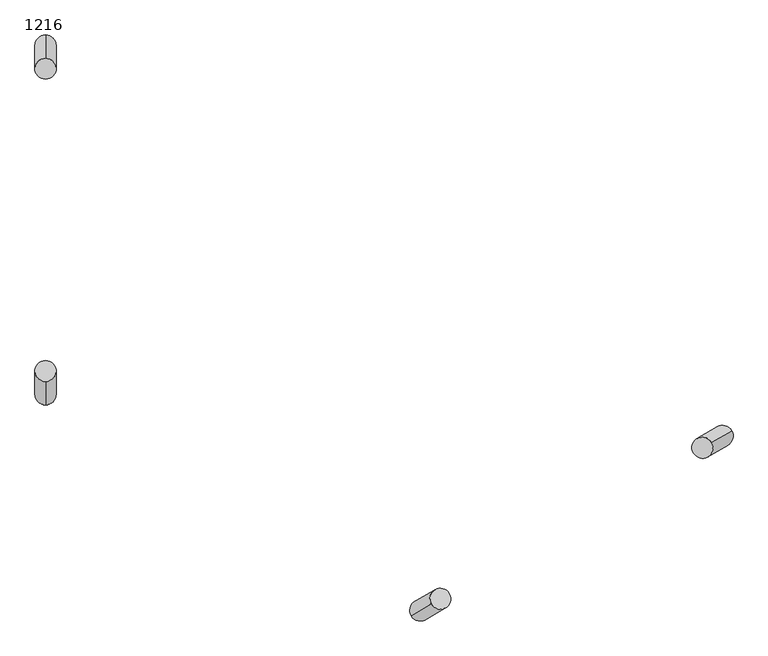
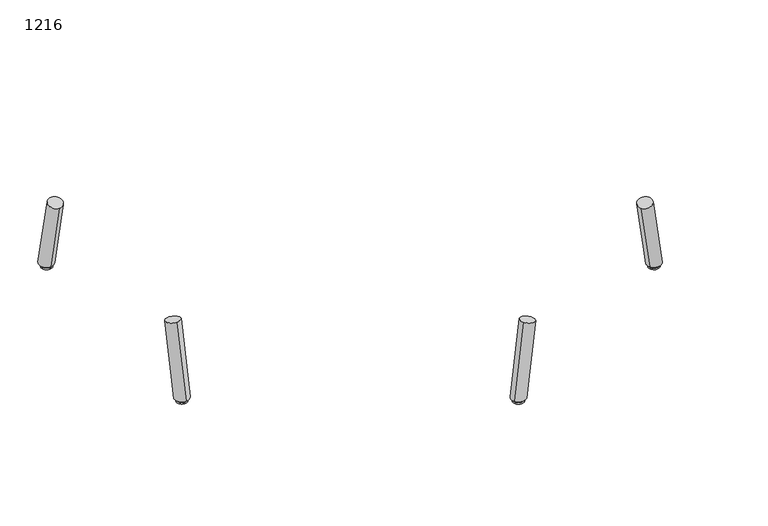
"""IFC4 building model written with IfcOpenShell, lengths in millimetres: furniture geometry, Laguna-Modular-Inside_Curve-ERG : 1216."""

import ifcopenshell
import ifcopenshell.guid

model = None  # the IFC model being written
_history = None  # IfcOwnerHistory: only IFC2X3 demands one
_inside = {}  # id of a spatial element -> (the spatial element, [elements in it])
_under = {}  # id of a project, library or spatial element -> (it, [spatial elements below it])
_declared = {}  # id of a project -> (the project, [libraries it declares])
_typed = {}  # id of a type object -> (the type object, [elements of that type])
_made_of = {}  # id of a material, layer set ... -> (it, [elements and type objects made of it])


def new_model(schema):
    """Start an empty IFC model of exactly this schema.

    Asked for "IFC4X3", IfcOpenShell would pick the latest addendum, in which some entities
    have other attributes; the version numbers below select the first issue.
    IFC2X3 requires an IfcOwnerHistory on every rooted entity: one is made here for all.
    """
    global model, _history
    if schema == "IFC4X3":
        model = ifcopenshell.file(schema_version=(4, 3, 0, 0))
    else:
        model = ifcopenshell.file(schema=schema)
    _inside.clear()
    _under.clear()
    _declared.clear()
    _typed.clear()
    _made_of.clear()
    _history = None
    if model.schema == "IFC2X3":
        org = make("IfcOrganization", Name="unknown")
        user = make(
            "IfcPersonAndOrganization",
            ThePerson=make("IfcPerson", FamilyName="unknown"),
            TheOrganization=org,
        )
        app = make(
            "IfcApplication",
            ApplicationDeveloper=org,
            Version="unknown",
            ApplicationFullName="unknown",
            ApplicationIdentifier="unknown",
        )
        _history = make(
            "IfcOwnerHistory",
            OwningUser=user,
            OwningApplication=app,
            ChangeAction="ADDED",
            CreationDate=0,
        )
    return model


def make(cls, **values):
    """One entity of the class cls with the attributes given. An attribute that is None is left unset."""
    return model.create_entity(
        cls, **{name: value for name, value in values.items() if value is not None}
    )


def rooted(cls, **values):
    """An entity with a GlobalId (a new one), such as an element, a storey or a relation."""
    return make(cls, GlobalId=ifcopenshell.guid.new(), OwnerHistory=_history, **values)


def si_unit(unit_type, name, prefix=None):
    """IfcSIUnit, for example si_unit("LENGTHUNIT", "METRE", prefix="MILLI")."""
    return make("IfcSIUnit", UnitType=unit_type, Prefix=prefix, Name=name)


def assignment(units):
    """IfcUnitAssignment: the units of a project."""
    return None if units is None else make("IfcUnitAssignment", Units=units)


def point(xyz):
    """IfcCartesianPoint."""
    return None if xyz is None else make("IfcCartesianPoint", Coordinates=xyz)


def direction(xyz):
    """IfcDirection."""
    return None if xyz is None else make("IfcDirection", DirectionRatios=xyz)


def frame(location, z_axis=None, x_axis=None):
    """IfcAxis2Placement3D, a coordinate frame: its origin and axes. An axis left out is left unset."""
    return make(
        "IfcAxis2Placement3D",
        Location=point(location),
        Axis=direction(z_axis),
        RefDirection=direction(x_axis),
    )


def origin():
    """The frame at (0, 0, 0) with its axes left unset."""
    return frame((0.0, 0.0, 0.0))


def place(relative_to, where):
    """IfcLocalPlacement: puts the frame where relative to a parent placement (None: the world)."""
    return make(
        "IfcLocalPlacement", PlacementRelTo=relative_to, RelativePlacement=where
    )


def context(
    kind, dimensions, precision=None, world=None, true_north=None, identifier=None
):
    """IfcGeometricRepresentationContext, for example the 3D "Model" context."""
    return make(
        "IfcGeometricRepresentationContext",
        ContextIdentifier=identifier,
        ContextType=kind,
        CoordinateSpaceDimension=dimensions,
        Precision=precision,
        WorldCoordinateSystem=world,
        TrueNorth=true_north,
    )


def project(units=None, contexts=None):
    """IfcProject with its units and contexts."""
    return rooted(
        "IfcProject",
        Name="project",
        RepresentationContexts=contexts,
        UnitsInContext=assignment(units),
    )


def spatial(cls, under=None, at=None, **own):
    """A site, building, storey or space (cls), placed at a placement, below another one or the project."""
    s = rooted(cls, ObjectPlacement=at, **own)
    if under is not None:
        _under.setdefault(under.id(), (under, []))[1].append(s)
    return s


def circle_curve(where, radius):
    """IfcCircle in the frame where."""
    return make("IfcCircle", Position=where, Radius=radius)


def ellipse_curve(where, semi_axis1, semi_axis2):
    """IfcEllipse in the frame where."""
    return make(
        "IfcEllipse", Position=where, SemiAxis1=semi_axis1, SemiAxis2=semi_axis2
    )


def shape(context_of_items, identifier, shape_type, items):
    """IfcShapeRepresentation: the items that make up one representation, for example the "Body"."""
    return make(
        "IfcShapeRepresentation",
        ContextOfItems=context_of_items,
        RepresentationIdentifier=identifier,
        RepresentationType=shape_type,
        Items=items,
    )


def source(mapping_origin, context_of_items, identifier, shape_type, items):
    """IfcRepresentationMap: a shape defined once, which mapped items show again and again."""
    return make(
        "IfcRepresentationMap",
        MappingOrigin=mapping_origin,
        MappedRepresentation=shape(context_of_items, identifier, shape_type, items),
    )


def transform(
    local_origin,
    x_axis=None,
    y_axis=None,
    z_axis=None,
    scale=None,
    scale2=None,
    scale3=None,
    uniform=True,
):
    """IfcCartesianTransformationOperator3D, or its non-uniform kind. x_axis, y_axis, z_axis: its Axis1, 2, 3."""
    if uniform:
        return make(
            "IfcCartesianTransformationOperator3D",
            Axis1=direction(x_axis),
            Axis2=direction(y_axis),
            LocalOrigin=point(local_origin),
            Scale=scale,
            Axis3=direction(z_axis),
        )
    return make(
        "IfcCartesianTransformationOperator3DnonUniform",
        Axis1=direction(x_axis),
        Axis2=direction(y_axis),
        LocalOrigin=point(local_origin),
        Scale=scale,
        Axis3=direction(z_axis),
        Scale2=scale2,
        Scale3=scale3,
    )


def mapped(mapping_source, mapping_target):
    """IfcMappedItem: shows the shape of a source again, moved by a transform."""
    return make(
        "IfcMappedItem", MappingSource=mapping_source, MappingTarget=mapping_target
    )


def made_of(thing, what):
    """Note that an element or type object is made of a material, layer set ...; save() writes the relation."""
    if what is not None:
        _made_of.setdefault(what.id(), (what, []))[1].append(thing)
    return thing


def element(
    cls,
    number,
    at=None,
    inside=None,
    cuts=None,
    type_object=None,
    material=None,
    context=None,
    identifier="Body",
    shape_type=None,
    held_by="IfcProductDefinitionShape",
    body=None,
    shapes=None,
    **own,
):
    """One element of the class cls, such as IfcWall. Its Tag is "e" and its number.

    at: its placement. inside: the storey or other place that contains it. cuts: it is an
    opening in that element (IfcRelVoidsElement). A single representation is given by context,
    identifier, shape_type and body (its items); several are given by shapes. held_by: the class
    of the entity that holds the representations. save() writes the other relations.
    """
    e = rooted(cls, Tag="e%d" % number, ObjectPlacement=at, **own)
    if body is not None:
        shapes = [shape(context, identifier, shape_type, body)]
    if shapes is not None:
        e.Representation = make(held_by, Representations=shapes)
    if inside is not None:
        _inside.setdefault(inside.id(), (inside, []))[1].append(e)
    if cuts is not None:
        rooted(
            "IfcRelVoidsElement", RelatingBuildingElement=cuts, RelatedOpeningElement=e
        )
    if type_object is not None:
        _typed.setdefault(type_object.id(), (type_object, []))[1].append(e)
    return made_of(e, material)


def aggregate(whole, parts):
    """IfcRelAggregates: a whole, such as a stair, and the parts it consists of."""
    return rooted("IfcRelAggregates", RelatingObject=whole, RelatedObjects=parts)


def save(model, path):
    """Write the relations noted so far, then the file.

    IfcRelAggregates (storeys below a building ...), IfcRelContainedInSpatialStructure (elements
    in a storey), IfcRelDefinesByType, IfcRelAssociatesMaterial and IfcRelDeclares: one each for
    every whole, place, type object, material and project.
    """
    for whole, parts in _under.values():
        aggregate(whole, parts)
    for where, things in _inside.values():
        rooted(
            "IfcRelContainedInSpatialStructure",
            RelatedElements=things,
            RelatingStructure=where,
        )
    for kind, things in _typed.values():
        rooted("IfcRelDefinesByType", RelatedObjects=things, RelatingType=kind)
    for what, things in _made_of.values():
        rooted("IfcRelAssociatesMaterial", RelatedObjects=things, RelatingMaterial=what)
    for by, libraries in _declared.values():
        rooted("IfcRelDeclares", RelatingContext=by, RelatedDefinitions=libraries)
    model.write(path)


def plane_surface(at):
    """IfcPlane: the flat surface through the origin of the frame at, square to its z axis."""
    return make("IfcPlane", Position=at)


def cylinder_surface(at, radius):
    """IfcCylindricalSurface: all points at the distance radius from the z axis of the frame at."""
    return make("IfcCylindricalSurface", Position=at, Radius=radius)


def advanced_brep(points, edges, surfaces, faces):
    """IfcAdvancedBrep: a solid bounded by faces that lie on surfaces and meet in shared edges.

    An edge is (start, end): straight between two places in points (the first is 0);
    or (start, end, curve); or (start, end, curve, False) where it runs against its curve.
    A face is (place in surfaces, loops), or (place, loops, False) where it looks against
    its surface's normal. A loop lists edges by number (the first is 1), with a minus sign
    where the edge is run from its end to its start. The first loop is the outer one.
    """
    corners = [point(p) for p in points]
    vertices = [make("IfcVertexPoint", VertexGeometry=c) for c in corners]
    made = []
    for start, end, *more in edges:
        made.append(
            make(
                "IfcEdgeCurve",
                EdgeStart=vertices[start],
                EdgeEnd=vertices[end],
                EdgeGeometry=more[0] if more else make("IfcPolyline", Points=[corners[start], corners[end]]),
                SameSense=more[1] if len(more) > 1 else True,
            )
        )
    hull = []
    for where, loops, *sense in faces:
        bounds = []
        for j, loop in enumerate(loops):
            ring = [make("IfcOrientedEdge", EdgeElement=made[abs(k) - 1], Orientation=k > 0) for k in loop]
            bounds.append(
                make(
                    "IfcFaceOuterBound" if j == 0 else "IfcFaceBound",
                    Bound=make("IfcEdgeLoop", EdgeList=ring),
                    Orientation=True,
                )
            )
        hull.append(make("IfcAdvancedFace", Bounds=bounds, FaceSurface=surfaces[where], SameSense=sense[0] if sense else True))
    return make("IfcAdvancedBrep", Outer=make("IfcClosedShell", CfsFaces=hull))


def furniture_1216_b5371cae(model_context):
    return source(origin(), model_context, "Body", "AdvancedBrep", [
        advanced_brep(
        [(-4110.2347699, 419.133877, 3.9615026), (-4085.3844797, 433.4811987, 3.9615026), (-4093.8888866, 428.5711771, 3.9615026), (-4101.730363, 424.0438986, 3.9615026), (-4110.2347699, 419.133877, 0.0), (-4085.3844797, 433.4811987, 0.0), (-4097.8096248, 426.3075379, 0.0), (-4101.730363, 424.0438986, 10.16), (-4093.8888866, 428.5711771, 10.16), (-4097.8096248, 426.3075379, 10.16)],
        [
            (0, 1, circle_curve(frame((-4097.8096248, 426.3075379, 3.9615026), z_axis=(0.0, 0.0, 1.0), x_axis=(0.8660254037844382, 0.5000000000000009, 0.0)), 14.3473217)),
            (1, 2),
            (2, 3, circle_curve(frame((-4097.8096248, 426.3075379, 3.9615026), z_axis=(0.0, 0.0, -1.0), x_axis=(0.8660254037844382, 0.5000000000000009, 0.0)), 4.5272785)),
            (3, 0),
            (1, 0, circle_curve(frame((-4097.8096248, 426.3075379, 3.9615026), z_axis=(0.0, 0.0, 1.0), x_axis=(0.8660254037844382, 0.5000000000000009, 0.0)), 14.3473217)),
            (3, 2, circle_curve(frame((-4097.8096248, 426.3075379, 3.9615026), z_axis=(0.0, 0.0, -1.0), x_axis=(0.8660254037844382, 0.5000000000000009, 0.0)), 4.5272785)),
            (4, 5, circle_curve(frame((-4097.8096248, 426.3075379, 0.0), z_axis=(0.0, 0.0, 1.0), x_axis=(0.8660254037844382, 0.5000000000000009, 0.0)), 14.3473217)),
            (5, 1),
            (0, 4),
            (5, 4, circle_curve(frame((-4097.8096248, 426.3075379, 0.0), z_axis=(0.0, 0.0, 1.0), x_axis=(0.8660254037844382, 0.5000000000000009, 0.0)), 14.3473217)),
            (6, 5),
            (4, 6),
            (7, 8, circle_curve(frame((-4097.8096248, 426.3075379, 10.16), z_axis=(0.0, 0.0, 1.0), x_axis=(0.8660254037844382, 0.5000000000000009, 0.0)), 4.5272785)),
            (8, 9),
            (9, 7),
            (8, 7, circle_curve(frame((-4097.8096248, 426.3075379, 10.16), z_axis=(0.0, 0.0, 1.0), x_axis=(0.8660254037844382, 0.5000000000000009, 0.0)), 4.5272785)),
            (2, 8),
            (7, 3),
        ],
        [
            plane_surface(frame((-4097.8096248, 426.3075379, 3.9615026), z_axis=(0.0, 0.0, 1.0), x_axis=(0.8660254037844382, 0.5000000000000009, 0.0))),
            cylinder_surface(frame((-4097.8096248, 426.3075379, 3.9615026), z_axis=(0.0, 0.0, -1.0), x_axis=(0.8660254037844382, 0.5000000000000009, 0.0)), 14.3473217),
            plane_surface(frame((-4097.8096248, 426.3075379, 0.0), z_axis=(0.0, 0.0, -1.0), x_axis=(0.8660254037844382, 0.5000000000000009, 0.0))),
            plane_surface(frame((-4097.8096248, 426.3075379, 10.16), z_axis=(0.0, 0.0, 1.0), x_axis=(0.8660254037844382, 0.5000000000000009, 0.0))),
            cylinder_surface(frame((-4097.8096248, 426.3075379, 3.9615026), z_axis=(0.0, 0.0, -1.0), x_axis=(0.8660254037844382, 0.5000000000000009, 0.0)), 4.5272785),
        ],
        [
            (0, [[1, 2, 3, 4]]),
            (0, [[5, -4, 6, -2]]),
            (1, [[7, 8, -1, 9]]),
            (1, [[10, -9, -5, -8]]),
            (2, [[11, -7, 12]]),
            (2, [[-12, -10, -11]]),
            (3, [[13, 14, 15]]),
            (3, [[16, -15, -14]]),
            (4, [[-3, 17, -13, 18]]),
            (4, [[-6, -18, -16, -17]]),
        ],
    ),
        advanced_brep(
        [(-3569.5166556, 731.3176258, 3.9615026), (-3544.6663654, 745.6649476, 3.9615026), (-3553.1707724, 740.7549259, 3.9615026), (-3561.0122487, 736.2276475, 3.9615026), (-3569.5166556, 731.3176258, 0.0), (-3544.6663654, 745.6649476, 0.0), (-3557.0915105, 738.4912867, 0.0), (-3561.0122487, 736.2276475, 10.16), (-3553.1707724, 740.7549259, 10.16), (-3557.0915105, 738.4912867, 10.16)],
        [
            (0, 1, circle_curve(frame((-3557.0915105, 738.4912867, 3.9615026), z_axis=(0.0, 0.0, 1.0), x_axis=(0.8660254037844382, 0.5000000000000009, 0.0)), 14.3473217)),
            (1, 2),
            (2, 3, circle_curve(frame((-3557.0915105, 738.4912867, 3.9615026), z_axis=(0.0, 0.0, -1.0), x_axis=(0.8660254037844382, 0.5000000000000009, 0.0)), 4.5272785)),
            (3, 0),
            (1, 0, circle_curve(frame((-3557.0915105, 738.4912867, 3.9615026), z_axis=(0.0, 0.0, 1.0), x_axis=(0.8660254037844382, 0.5000000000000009, 0.0)), 14.3473217)),
            (3, 2, circle_curve(frame((-3557.0915105, 738.4912867, 3.9615026), z_axis=(0.0, 0.0, -1.0), x_axis=(0.8660254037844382, 0.5000000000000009, 0.0)), 4.5272785)),
            (4, 5, circle_curve(frame((-3557.0915105, 738.4912867, 0.0), z_axis=(0.0, 0.0, 1.0), x_axis=(0.8660254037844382, 0.5000000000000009, 0.0)), 14.3473217)),
            (5, 1),
            (0, 4),
            (5, 4, circle_curve(frame((-3557.0915105, 738.4912867, 0.0), z_axis=(0.0, 0.0, 1.0), x_axis=(0.8660254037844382, 0.5000000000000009, 0.0)), 14.3473217)),
            (6, 5),
            (4, 6),
            (7, 8, circle_curve(frame((-3557.0915105, 738.4912867, 10.16), z_axis=(0.0, 0.0, 1.0), x_axis=(0.8660254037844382, 0.5000000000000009, 0.0)), 4.5272785)),
            (8, 9),
            (9, 7),
            (8, 7, circle_curve(frame((-3557.0915105, 738.4912867, 10.16), z_axis=(0.0, 0.0, 1.0), x_axis=(0.8660254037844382, 0.5000000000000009, 0.0)), 4.5272785)),
            (2, 8),
            (7, 3),
        ],
        [
            plane_surface(frame((-3557.0915105, 738.4912867, 3.9615026), z_axis=(0.0, 0.0, 1.0), x_axis=(0.8660254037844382, 0.5000000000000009, 0.0))),
            cylinder_surface(frame((-3557.0915105, 738.4912867, 3.9615026), z_axis=(0.0, 0.0, -1.0), x_axis=(0.8660254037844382, 0.5000000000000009, 0.0)), 14.3473217),
            plane_surface(frame((-3557.0915105, 738.4912867, 0.0), z_axis=(0.0, 0.0, -1.0), x_axis=(0.8660254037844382, 0.5000000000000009, 0.0))),
            plane_surface(frame((-3557.0915105, 738.4912867, 10.16), z_axis=(0.0, 0.0, 1.0), x_axis=(0.8660254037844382, 0.5000000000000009, 0.0))),
            cylinder_surface(frame((-3557.0915105, 738.4912867, 3.9615026), z_axis=(0.0, 0.0, -1.0), x_axis=(0.8660254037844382, 0.5000000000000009, 0.0)), 4.5272785),
        ],
        [
            (0, [[1, 2, 3, 4]]),
            (0, [[5, -4, 6, -2]]),
            (1, [[7, 8, -1, 9]]),
            (1, [[10, -9, -5, -8]]),
            (2, [[11, -7, 12]]),
            (2, [[-12, -10, -11]]),
            (3, [[13, 14, 15]]),
            (3, [[16, -15, -14]]),
            (4, [[-3, 17, -13, 18]]),
            (4, [[-6, -18, -16, -17]]),
        ],
    ),
        advanced_brep(
        [(-4769.4056322, 1441.6208563, 10.16), (-4769.4056322, 1433.13476, 10.16), (-4769.4056322, 1437.3778081, 10.16), (-4769.4056322, 1437.3778081, 0.0), (-4769.4056322, 1423.2994547, 0.0), (-4769.4056322, 1451.4561616, 0.0), (-4769.4056322, 1423.2994547, 3.9615026), (-4769.4056322, 1451.4561616, 3.9615026), (-4769.4056322, 1433.13476, 3.9615026), (-4769.4056322, 1441.6208563, 3.9615026)],
        [
            (0, 1, circle_curve(frame((-4769.4056322, 1437.3778081, 10.16), z_axis=(0.0, 0.0, 1.0), x_axis=(0.0, -1.0, 0.0)), 4.2430482)),
            (1, 2),
            (2, 0),
            (1, 0, circle_curve(frame((-4769.4056322, 1437.3778081, 10.16), z_axis=(0.0, 0.0, 1.0), x_axis=(0.0, -1.0, 0.0)), 4.2430482)),
            (3, 4),
            (4, 5, circle_curve(frame((-4769.4056322, 1437.3778081, 0.0), z_axis=(0.0, 0.0, -1.0), x_axis=(0.0, -1.0, 0.0)), 14.0783534)),
            (5, 3),
            (5, 4, circle_curve(frame((-4769.4056322, 1437.3778081, 0.0), z_axis=(0.0, 0.0, -1.0), x_axis=(0.0, -1.0, 0.0)), 14.0783534)),
            (4, 6),
            (6, 7, circle_curve(frame((-4769.4056322, 1437.3778081, 3.9615026), z_axis=(0.0, 0.0, -1.0), x_axis=(0.0, -1.0, 0.0)), 14.0783534)),
            (7, 5),
            (7, 6, circle_curve(frame((-4769.4056322, 1437.3778081, 3.9615026), z_axis=(0.0, 0.0, -1.0), x_axis=(0.0, -1.0, 0.0)), 14.0783534)),
            (6, 8),
            (8, 9, circle_curve(frame((-4769.4056322, 1437.3778081, 3.9615026), z_axis=(0.0, 0.0, -1.0), x_axis=(0.0, -1.0, 0.0)), 4.2430482)),
            (9, 7),
            (9, 8, circle_curve(frame((-4769.4056322, 1437.3778081, 3.9615026), z_axis=(0.0, 0.0, -1.0), x_axis=(0.0, -1.0, 0.0)), 4.2430482)),
            (8, 1),
            (0, 9),
        ],
        [
            plane_surface(frame((-4769.4056322, 1437.3778081, 10.16), z_axis=(0.0, 0.0, 1.0), x_axis=(0.0, -1.0, 0.0))),
            plane_surface(frame((-4769.4056322, 1437.3778081, 0.0), z_axis=(0.0, 0.0, -1.0), x_axis=(0.0, -1.0, 0.0))),
            cylinder_surface(frame((-4769.4056322, 1437.3778081, 10.16), z_axis=(0.0, 0.0, -1.0), x_axis=(0.0, -1.0, 0.0)), 14.0783534),
            plane_surface(frame((-4769.4056322, 1437.3778081, 3.9615026), z_axis=(0.0, 0.0, 1.0), x_axis=(0.0, -1.0, 0.0))),
            cylinder_surface(frame((-4769.4056322, 1437.3778081, 10.16), z_axis=(0.0, 0.0, -1.0), x_axis=(0.0, -1.0, 0.0)), 4.2430482),
        ],
        [
            (0, [[1, 2, 3]]),
            (0, [[4, -3, -2]]),
            (1, [[5, 6, 7]]),
            (1, [[-7, 8, -5]]),
            (2, [[-6, 9, 10, 11]]),
            (2, [[-8, -11, 12, -9]]),
            (3, [[-10, 13, 14, 15]]),
            (3, [[-12, -15, 16, -13]]),
            (4, [[-14, 17, -1, 18]]),
            (4, [[-16, -18, -4, -17]]),
        ],
    ),
        advanced_brep(
        [(-4769.4056322, 814.5485049, 10.16), (-4769.4056322, 818.7915531, 10.16), (-4769.4056322, 810.3054568, 10.16), (-4769.4056322, 800.4701515, 0.0), (-4769.4056322, 828.6268583, 0.0), (-4769.4056322, 814.5485049, 0.0), (-4769.4056322, 800.4701515, 3.9615026), (-4769.4056322, 828.6268583, 3.9615026), (-4769.4056322, 810.3054568, 3.9615026), (-4769.4056322, 818.7915531, 3.9615026)],
        [
            (0, 1),
            (1, 2, circle_curve(frame((-4769.4056322, 814.5485049, 10.16), z_axis=(0.0, 0.0, 1.0), x_axis=(0.0, 1.0, 0.0)), 4.2430482)),
            (2, 0),
            (2, 1, circle_curve(frame((-4769.4056322, 814.5485049, 10.16), z_axis=(0.0, 0.0, 1.0), x_axis=(0.0, 1.0, 0.0)), 4.2430482)),
            (3, 4, circle_curve(frame((-4769.4056322, 814.5485049, 0.0), z_axis=(0.0, 0.0, -1.0), x_axis=(0.0, 1.0, 0.0)), 14.0783534)),
            (4, 5),
            (5, 3),
            (4, 3, circle_curve(frame((-4769.4056322, 814.5485049, 0.0), z_axis=(0.0, 0.0, -1.0), x_axis=(0.0, 1.0, 0.0)), 14.0783534)),
            (6, 7, circle_curve(frame((-4769.4056322, 814.5485049, 3.9615026), z_axis=(0.0, 0.0, -1.0), x_axis=(0.0, 1.0, 0.0)), 14.0783534)),
            (7, 4),
            (3, 6),
            (7, 6, circle_curve(frame((-4769.4056322, 814.5485049, 3.9615026), z_axis=(0.0, 0.0, -1.0), x_axis=(0.0, 1.0, 0.0)), 14.0783534)),
            (8, 9, circle_curve(frame((-4769.4056322, 814.5485049, 3.9615026), z_axis=(0.0, 0.0, -1.0), x_axis=(0.0, 1.0, 0.0)), 4.2430482)),
            (9, 7),
            (6, 8),
            (9, 8, circle_curve(frame((-4769.4056322, 814.5485049, 3.9615026), z_axis=(0.0, 0.0, -1.0), x_axis=(0.0, 1.0, 0.0)), 4.2430482)),
            (1, 9),
            (8, 2),
        ],
        [
            plane_surface(frame((-4769.4056322, 814.5485049, 10.16), z_axis=(0.0, 0.0, 1.0), x_axis=(0.0, 1.0, 0.0))),
            plane_surface(frame((-4769.4056322, 814.5485049, 0.0), z_axis=(0.0, 0.0, -1.0), x_axis=(0.0, 1.0, 0.0))),
            cylinder_surface(frame((-4769.4056322, 814.5485049, 10.16), z_axis=(0.0, 0.0, 1.0), x_axis=(0.0, 1.0, 0.0)), 14.0783534),
            plane_surface(frame((-4769.4056322, 814.5485049, 3.9615026), z_axis=(0.0, 0.0, 1.0), x_axis=(0.0, 1.0, 0.0))),
            cylinder_surface(frame((-4769.4056322, 814.5485049, 10.16), z_axis=(0.0, 0.0, 1.0), x_axis=(0.0, 1.0, 0.0)), 4.2430482),
        ],
        [
            (0, [[1, 2, 3]]),
            (0, [[-3, 4, -1]]),
            (1, [[5, 6, 7]]),
            (1, [[8, -7, -6]]),
            (2, [[9, 10, -5, 11]]),
            (2, [[12, -11, -8, -10]]),
            (3, [[13, 14, -9, 15]]),
            (3, [[16, -15, -12, -14]]),
            (4, [[-2, 17, -13, 18]]),
            (4, [[-4, -18, -16, -17]]),
        ],
    ),
        advanced_brep(
        [(-4769.4056322, 1415.8454177, 207.1767944), (-4769.4056322, 1378.584843, 199.2232056), (-4769.4056322, 1457.9003393, 10.16), (-4769.4056322, 1418.942003, 10.16)],
        [
            (0, 1, circle_curve(frame((-4769.4056322, 1397.2151303, 203.2), z_axis=(0.0, -0.20875560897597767, 0.977967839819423), x_axis=(0.0, -0.977967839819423, -0.20875560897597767)), 19.05)),
            (1, 0, circle_curve(frame((-4769.4056322, 1397.2151303, 203.2), z_axis=(0.0, -0.20875560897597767, 0.977967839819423), x_axis=(0.0, -0.977967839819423, -0.20875560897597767)), 19.05)),
            (0, 2),
            (2, 3, ellipse_curve(frame((-4769.4056322, 1438.4211712, 10.16), z_axis=(0.0, 0.0, 1.0), x_axis=(0.0, -1.0, 0.0)), 19.4791682, 19.05)),
            (3, 1),
            (3, 2, ellipse_curve(frame((-4769.4056322, 1438.4211712, 10.16), z_axis=(0.0, 0.0, 1.0), x_axis=(0.0, -1.0, 0.0)), 19.4791682, 19.05)),
        ],
        [
            plane_surface(frame((-4769.4056322, 1397.2151303, 203.2), z_axis=(0.0, -0.20875560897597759, 0.977967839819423), x_axis=(-1.0, 0.0, 0.0))),
            cylinder_surface(frame((-4769.4056322, 1397.2151303, 203.2), z_axis=(0.0, -0.20875560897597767, 0.977967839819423), x_axis=(0.0, -0.977967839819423, -0.20875560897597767)), 19.05),
            plane_surface(frame((-3404.1553779, 1460.7151303, 10.16), z_axis=(0.0, 0.0, -1.0), x_axis=(-1.0, 0.0, 0.0))),
        ],
        [
            (0, [[1, 2]]),
            (1, [[-1, 3, 4, 5]]),
            (1, [[-2, -5, 6, -3]]),
            (2, [[-4, -6]]),
        ],
    ),
        advanced_brep(
        [(-4769.4056322, 873.8900017, 199.2232056), (-4769.4056322, 836.629427, 207.1767944), (-4769.4056322, 833.5328417, 10.16), (-4769.4056322, 794.5745054, 10.16)],
        [
            (0, 1, circle_curve(frame((-4769.4056322, 855.2597144, 203.2), z_axis=(0.0, 0.20875560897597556, 0.9779678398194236), x_axis=(0.0, -0.9779678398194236, 0.20875560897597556)), 19.05)),
            (1, 0, circle_curve(frame((-4769.4056322, 855.2597144, 203.2), z_axis=(0.0, 0.20875560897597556, 0.9779678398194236), x_axis=(0.0, -0.9779678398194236, 0.20875560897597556)), 19.05)),
            (0, 2),
            (2, 3, ellipse_curve(frame((-4769.4056322, 814.0536735, 10.16), z_axis=(0.0, 0.0, 1.0), x_axis=(0.0, 0.9999999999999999, 0.0)), 19.4791682, 19.05)),
            (3, 1),
            (3, 2, ellipse_curve(frame((-4769.4056322, 814.0536735, 10.16), z_axis=(0.0, 0.0, 1.0), x_axis=(0.0, 0.9999999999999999, 0.0)), 19.4791682, 19.05)),
        ],
        [
            plane_surface(frame((-4769.4056322, 855.2597144, 203.2), z_axis=(0.0, 0.2087556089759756, 0.9779678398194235), x_axis=(-1.0, 0.0, 0.0))),
            cylinder_surface(frame((-4769.4056322, 855.2597144, 203.2), z_axis=(0.0, 0.20875560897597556, 0.9779678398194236), x_axis=(0.0, -0.9779678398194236, 0.20875560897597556)), 19.05),
            plane_surface(frame((-3404.1553779, 1460.7151303, 10.16), z_axis=(0.0, 0.0, -1.0), x_axis=(-1.0, 0.0, 0.0))),
        ],
        [
            (0, [[1, 2]]),
            (1, [[-1, 3, 4, 5]]),
            (1, [[-2, -5, 6, -3]]),
            (2, [[-4, -6]]),
        ],
    ),
        advanced_brep(
        [(-3576.6426866, 727.20341, 207.1767944), (-3608.9112908, 708.5731226, 199.2232056), (-3540.2220561, 748.2308708, 10.16), (-3573.960965, 728.7517026, 10.16)],
        [
            (0, 1, circle_curve(frame((-3592.7769887, 717.8882663, 203.2), z_axis=(-0.18078766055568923, -0.10437780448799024, 0.9779678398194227), x_axis=(-0.8469449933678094, -0.4889839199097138, -0.20875560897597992)), 19.05)),
            (1, 0, circle_curve(frame((-3592.7769887, 717.8882663, 203.2), z_axis=(-0.18078766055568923, -0.10437780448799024, 0.9779678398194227), x_axis=(-0.8469449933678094, -0.4889839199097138, -0.20875560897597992)), 19.05)),
            (0, 2),
            (2, 3, ellipse_curve(frame((-3557.0915105, 738.4912867, 10.16), z_axis=(0.0, 0.0, 1.0), x_axis=(-0.8660254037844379, -0.5000000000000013, 0.0)), 19.4791682, 19.05)),
            (3, 1),
            (3, 2, ellipse_curve(frame((-3557.0915105, 738.4912867, 10.16), z_axis=(0.0, 0.0, 1.0), x_axis=(-0.8660254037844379, -0.5000000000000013, 0.0)), 19.4791682, 19.05)),
        ],
        [
            plane_surface(frame((-3592.7769887, 717.8882663, 203.2), z_axis=(-0.18078766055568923, -0.10437780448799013, 0.9779678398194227), x_axis=(-0.500000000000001, 0.8660254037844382, 0.0))),
            cylinder_surface(frame((-3592.7769887, 717.8882663, 203.2), z_axis=(-0.18078766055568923, -0.10437780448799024, 0.9779678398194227), x_axis=(-0.8469449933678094, -0.4889839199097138, -0.20875560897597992)), 19.05),
            plane_surface(frame((-3404.1553779, 1460.7151303, 10.16), z_axis=(0.0, 0.0, -1.0), x_axis=(-1.0, 0.0, 0.0))),
        ],
        [
            (0, [[1, 2]]),
            (1, [[-1, 3, 4, 5]]),
            (1, [[-2, -5, 6, -3]]),
            (2, [[-4, -6]]),
        ],
    ),
        advanced_brep(
        [(-4045.9898445, 456.225702, 199.2232056), (-4078.2584488, 437.5954146, 207.1767944), (-4080.9401704, 436.0471219, 10.16), (-4114.6790793, 416.5679538, 10.16)],
        [
            (0, 1, circle_curve(frame((-4062.1241467, 446.9105583, 203.2), z_axis=(0.18078766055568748, 0.10437780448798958, 0.977967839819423), x_axis=(-0.8469449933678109, -0.4889839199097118, 0.20875560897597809)), 19.05)),
            (1, 0, circle_curve(frame((-4062.1241467, 446.9105583, 203.2), z_axis=(0.18078766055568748, 0.10437780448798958, 0.977967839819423), x_axis=(-0.8469449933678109, -0.4889839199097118, 0.20875560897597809)), 19.05)),
            (0, 2),
            (2, 3, ellipse_curve(frame((-4097.8096248, 426.3075379, 10.16), z_axis=(0.0, 0.0, 1.0), x_axis=(0.8660254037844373, 0.5000000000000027, 0.0)), 19.4791682, 19.05)),
            (3, 1),
            (3, 2, ellipse_curve(frame((-4097.8096248, 426.3075379, 10.16), z_axis=(0.0, 0.0, 1.0), x_axis=(0.8660254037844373, 0.5000000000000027, 0.0)), 19.4791682, 19.05)),
        ],
        [
            plane_surface(frame((-4062.1241467, 446.9105583, 203.2), z_axis=(0.1807876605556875, 0.10437780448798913, 0.9779678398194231), x_axis=(-0.500000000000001, 0.8660254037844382, 0.0))),
            cylinder_surface(frame((-4062.1241467, 446.9105583, 203.2), z_axis=(0.18078766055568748, 0.10437780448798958, 0.977967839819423), x_axis=(-0.8469449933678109, -0.4889839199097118, 0.20875560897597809)), 19.05),
            plane_surface(frame((-3404.1553779, 1460.7151303, 10.16), z_axis=(0.0, 0.0, -1.0), x_axis=(-1.0, 0.0, 0.0))),
        ],
        [
            (0, [[1, 2]]),
            (1, [[-1, 3, 4, 5]]),
            (1, [[-2, -5, 6, -3]]),
            (2, [[-4, -6]]),
        ],
    ),
    ])


if __name__ == "__main__":
    model = new_model("IFC4")
    model_context = context("Model", 3, world=origin())
    ifc_project = project(units=[si_unit("LENGTHUNIT", "METRE", prefix="MILLI")], contexts=[model_context])
    site = spatial("IfcSite", under=ifc_project)
    building = spatial("IfcBuilding", under=site)
    placement = place(None, origin())
    furniture_1216_shape = furniture_1216_b5371cae(model_context)
    element("IfcFurniture", 1, ObjectType="Laguna-Modular-Inside_Curve-ERG : 1216", at=placement, inside=building, context=model_context, shape_type="MappedRepresentation", body=[
        mapped(furniture_1216_shape, transform((0.0, 0.0, 0.0), x_axis=(1.0, 0.0, 0.0), y_axis=(0.0, 1.0, 0.0), z_axis=(0.0, 0.0, 1.0))),
    ])
    save(model, "model.ifc")
